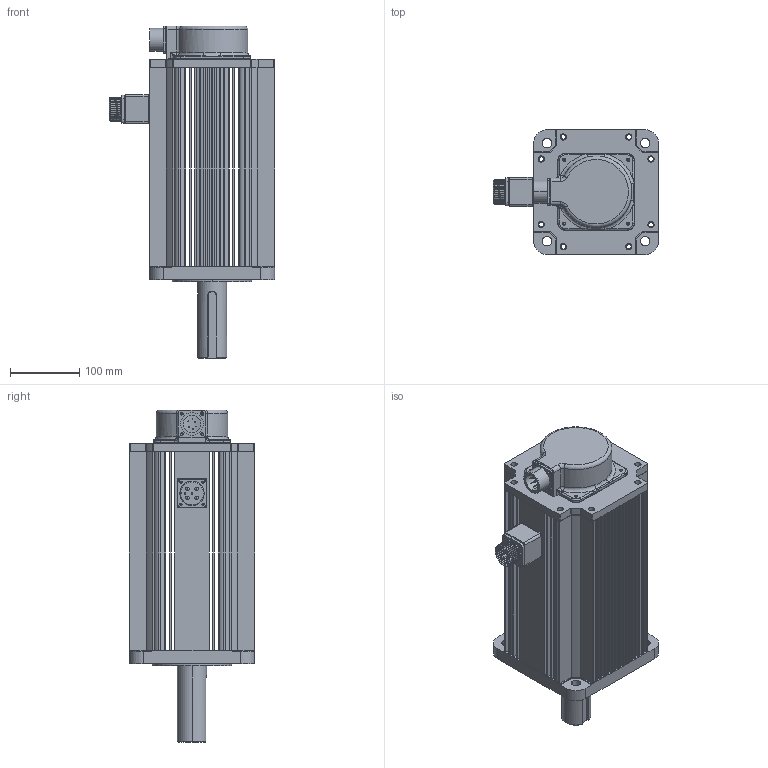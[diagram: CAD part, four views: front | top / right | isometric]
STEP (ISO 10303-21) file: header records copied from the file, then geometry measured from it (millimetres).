
FILE_DESCRIPTION (( 'STEP AP203' ), '1' );
FILE_NAME ('MS6H-180CN15BZ2-47P5.STEP', '2023-12-26T03:16:07', ( '' ), ( '' ), 'SwSTEP 2.0', 'SolidWorks 2022', '' );
FILE_SCHEMA (( 'CONFIG_CONTROL_DESIGN' ));
Length unit declared in the file: millimetre
Products named in the file (1): MS6H-180CN15BZ2-47P5
Bounding box: 237.9 x 180 x 478 mm (x, y, z)
Surface area: 542807.3 mm2 (no closed solid volume)
Topology: 0 solids, 20 shells, 745 faces, 2277 edges, 1537 vertices
Faces by surface type: cylinder 310, plane 304, torus 73, bspline 31, sphere 14, cone 13
Entity records: 31945 total; most frequent: CARTESIAN_POINT 11711, DIRECTION 4378, ORIENTED_EDGE 3866, EDGE_CURVE 2249, AXIS2_PLACEMENT_3D 1616, VERTEX_POINT 1525, VECTOR 1146, LINE 1146
